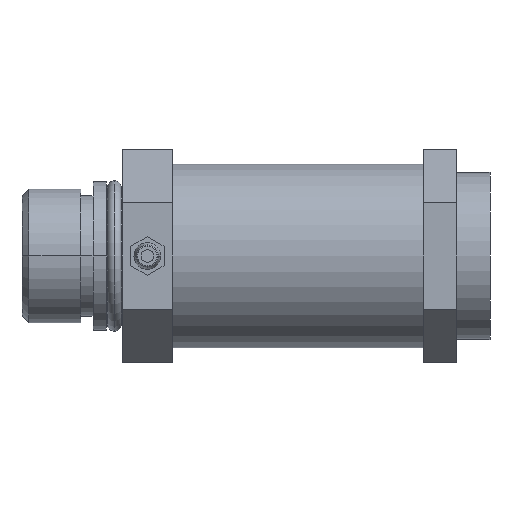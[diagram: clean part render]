
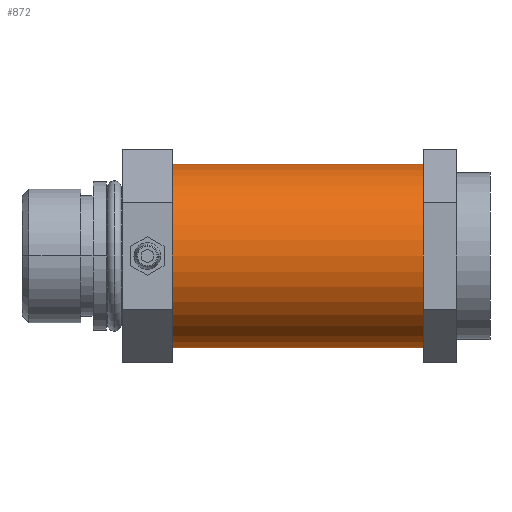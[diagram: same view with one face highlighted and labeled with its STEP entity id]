
A CAD part, front view. The second image highlights one B-rep face of the part: STEP entity #872.
In plain terms, the highlighted cylindrical face has radius 17.462 mm (diameter 34.925 mm), a partial arc.
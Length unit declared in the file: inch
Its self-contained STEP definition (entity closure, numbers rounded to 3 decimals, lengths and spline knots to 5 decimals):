
#802=CARTESIAN_POINT('',(-0.5,0.,0.));
#803=DIRECTION('',(1.,0.,0.));
#804=DIRECTION('',(0.,0.,1.));
#805=AXIS2_PLACEMENT_3D('',#802,#803,#804);
#807=DIRECTION('',(1.,0.,0.));
#808=VECTOR('',#807,1.875);
#809=CARTESIAN_POINT('',(-2.375,0.,-0.6875));
#810=LINE('',#809,#808);
#811=DIRECTION('',(1.,0.,0.));
#812=VECTOR('',#811,1.875);
#813=CARTESIAN_POINT('',(-2.375,0.,0.6875));
#814=LINE('',#813,#812);
#815=CARTESIAN_POINT('',(-2.375,0.,0.));
#816=DIRECTION('',(-1.,0.,0.));
#817=DIRECTION('',(0.,0.,-1.));
#818=AXIS2_PLACEMENT_3D('',#815,#816,#817);
#825=CARTESIAN_POINT('',(-2.375,0.,0.6875));
#826=CARTESIAN_POINT('',(-0.5,0.,0.6875));
#827=VERTEX_POINT('',#825);
#828=VERTEX_POINT('',#826);
#829=CARTESIAN_POINT('',(-2.375,0.,-0.6875));
#830=CARTESIAN_POINT('',(-0.5,0.,-0.6875));
#831=VERTEX_POINT('',#829);
#832=VERTEX_POINT('',#830);
#860=CARTESIAN_POINT('',(-2.375,0.,0.));
#861=DIRECTION('',(1.,0.,0.));
#862=DIRECTION('',(0.,0.,-1.));
#863=AXIS2_PLACEMENT_3D('',#860,#861,#862);
#864=CYLINDRICAL_SURFACE('',#863,0.6875);
#865=ORIENTED_EDGE('',*,*,#855,.T.);
#866=ORIENTED_EDGE('',*,*,#844,.F.);
#868=ORIENTED_EDGE('',*,*,#867,.T.);
#869=ORIENTED_EDGE('',*,*,#840,.T.);
#870=EDGE_LOOP('',(#865,#866,#868,#869));
#871=FACE_OUTER_BOUND('',#870,.F.);
#806=CIRCLE('',#805,0.6875);
#819=CIRCLE('',#818,0.6875);
#840=EDGE_CURVE('',#827,#828,#814,.T.);
#844=EDGE_CURVE('',#831,#832,#810,.T.);
#855=EDGE_CURVE('',#828,#832,#806,.T.);
#867=EDGE_CURVE('',#831,#827,#819,.T.);
#872=ADVANCED_FACE('',(#871),#864,.T.);
